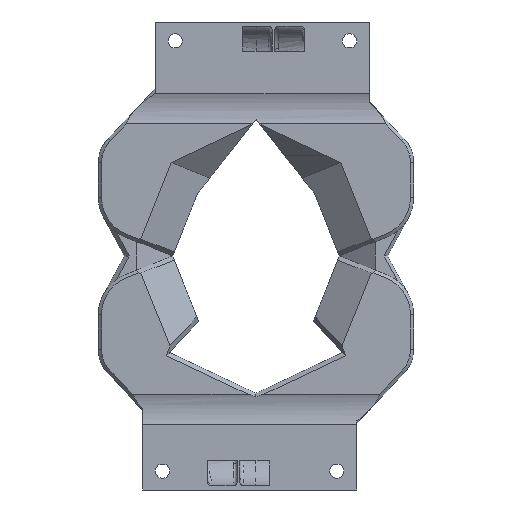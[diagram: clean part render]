
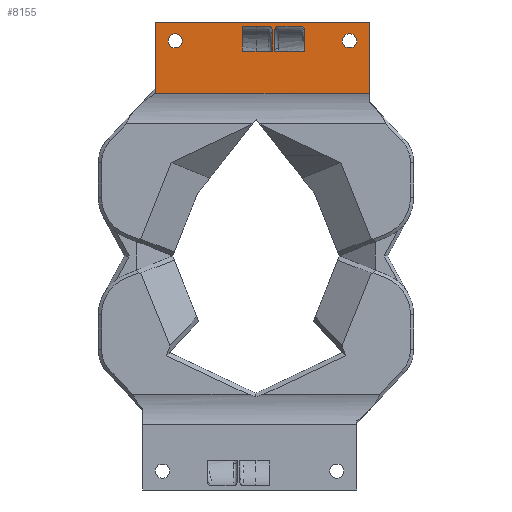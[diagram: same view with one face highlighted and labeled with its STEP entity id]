
A CAD part, left-side view. The second image highlights one B-rep face of the part: STEP entity #8155.
In plain terms, the highlighted planar face has unit normal (-1, 0, 0).
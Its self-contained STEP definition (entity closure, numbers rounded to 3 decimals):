
#33=FACE_BOUND('',#1445,.T.);
#34=FACE_BOUND('',#1446,.T.);
#35=FACE_BOUND('',#1447,.T.);
#36=FACE_BOUND('',#1448,.T.);
#341=CIRCLE('',#8670,1.65);
#342=CIRCLE('',#8672,1.65);
#344=CIRCLE('',#8675,1.);
#346=CIRCLE('',#8682,1.);
#347=CIRCLE('',#8690,1.);
#968=FACE_OUTER_BOUND('',#1444,.T.);
#1444=EDGE_LOOP('',(#7037,#7038,#7039,#7040,#7041));
#1445=EDGE_LOOP('',(#7042,#7043,#7044,#7045,#7046,#7047,#7048));
#1446=EDGE_LOOP('',(#7049,#7050,#7051,#7052,#7053,#7054,#7055));
#1447=EDGE_LOOP('',(#7056));
#1448=EDGE_LOOP('',(#7057));
#1953=LINE('',#16196,#2621);
#1955=LINE('',#16200,#2623);
#1957=LINE('',#16204,#2625);
#1959=LINE('',#16208,#2627);
#1962=LINE('',#16217,#2630);
#1964=LINE('',#16222,#2632);
#1966=LINE('',#16226,#2634);
#1968=LINE('',#16230,#2636);
#1971=LINE('',#16235,#2639);
#1973=LINE('',#16239,#2641);
#1975=LINE('',#16245,#2643);
#2024=LINE('',#16479,#2692);
#2059=LINE('',#16915,#2727);
#2060=LINE('',#16918,#2728);
#2061=LINE('',#16920,#2729);
#2062=LINE('',#16921,#2730);
#2621=VECTOR('',#10164,10.);
#2623=VECTOR('',#10168,10.);
#2625=VECTOR('',#10172,10.);
#2627=VECTOR('',#10176,10.);
#2630=VECTOR('',#10187,10.);
#2632=VECTOR('',#10191,10.);
#2634=VECTOR('',#10195,10.);
#2636=VECTOR('',#10199,10.);
#2639=VECTOR('',#10204,10.);
#2641=VECTOR('',#10208,10.);
#2643=VECTOR('',#10216,10.);
#2692=VECTOR('',#10359,10.);
#2727=VECTOR('',#10486,10.);
#2728=VECTOR('',#10489,10.);
#2729=VECTOR('',#10490,10.);
#2730=VECTOR('',#10491,10.);
#3665=VERTEX_POINT('',#16179);
#3666=VERTEX_POINT('',#16183);
#3668=VERTEX_POINT('',#16189);
#3669=VERTEX_POINT('',#16191);
#3670=VERTEX_POINT('',#16195);
#3671=VERTEX_POINT('',#16199);
#3672=VERTEX_POINT('',#16203);
#3673=VERTEX_POINT('',#16207);
#3675=VERTEX_POINT('',#16213);
#3676=VERTEX_POINT('',#16219);
#3677=VERTEX_POINT('',#16221);
#3678=VERTEX_POINT('',#16225);
#3679=VERTEX_POINT('',#16229);
#3680=VERTEX_POINT('',#16233);
#3681=VERTEX_POINT('',#16237);
#3682=VERTEX_POINT('',#16241);
#3731=VERTEX_POINT('',#16477);
#3732=VERTEX_POINT('',#16478);
#3771=VERTEX_POINT('',#16913);
#3772=VERTEX_POINT('',#16917);
#3773=VERTEX_POINT('',#16919);
#4723=EDGE_CURVE('',#3665,#3665,#341,.T.);
#4725=EDGE_CURVE('',#3666,#3666,#342,.T.);
#4729=EDGE_CURVE('',#3668,#3669,#344,.T.);
#4731=EDGE_CURVE('',#3669,#3670,#1953,.T.);
#4733=EDGE_CURVE('',#3670,#3671,#1955,.T.);
#4735=EDGE_CURVE('',#3671,#3672,#1957,.T.);
#4737=EDGE_CURVE('',#3672,#3673,#1959,.T.);
#4740=EDGE_CURVE('',#3673,#3675,#346,.T.);
#4742=EDGE_CURVE('',#3675,#3668,#1962,.T.);
#4744=EDGE_CURVE('',#3676,#3677,#1964,.T.);
#4746=EDGE_CURVE('',#3677,#3678,#1966,.T.);
#4748=EDGE_CURVE('',#3678,#3679,#1968,.T.);
#4751=EDGE_CURVE('',#3679,#3680,#1971,.T.);
#4753=EDGE_CURVE('',#3680,#3681,#1973,.T.);
#4755=EDGE_CURVE('',#3681,#3682,#347,.T.);
#4756=EDGE_CURVE('',#3682,#3676,#1975,.T.);
#4833=EDGE_CURVE('',#3731,#3732,#2024,.T.);
#4905=EDGE_CURVE('',#3771,#3732,#2059,.T.);
#4906=EDGE_CURVE('',#3771,#3772,#2060,.T.);
#4907=EDGE_CURVE('',#3773,#3772,#2061,.T.);
#4908=EDGE_CURVE('',#3731,#3773,#2062,.T.);
#7037=ORIENTED_EDGE('',*,*,#4833,.T.);
#7038=ORIENTED_EDGE('',*,*,#4905,.F.);
#7039=ORIENTED_EDGE('',*,*,#4906,.T.);
#7040=ORIENTED_EDGE('',*,*,#4907,.F.);
#7041=ORIENTED_EDGE('',*,*,#4908,.F.);
#7042=ORIENTED_EDGE('',*,*,#4756,.F.);
#7043=ORIENTED_EDGE('',*,*,#4755,.F.);
#7044=ORIENTED_EDGE('',*,*,#4753,.F.);
#7045=ORIENTED_EDGE('',*,*,#4751,.F.);
#7046=ORIENTED_EDGE('',*,*,#4748,.F.);
#7047=ORIENTED_EDGE('',*,*,#4746,.F.);
#7048=ORIENTED_EDGE('',*,*,#4744,.F.);
#7049=ORIENTED_EDGE('',*,*,#4742,.F.);
#7050=ORIENTED_EDGE('',*,*,#4740,.F.);
#7051=ORIENTED_EDGE('',*,*,#4737,.F.);
#7052=ORIENTED_EDGE('',*,*,#4735,.F.);
#7053=ORIENTED_EDGE('',*,*,#4733,.F.);
#7054=ORIENTED_EDGE('',*,*,#4731,.F.);
#7055=ORIENTED_EDGE('',*,*,#4729,.F.);
#7056=ORIENTED_EDGE('',*,*,#4725,.F.);
#7057=ORIENTED_EDGE('',*,*,#4723,.F.);
#7720=PLANE('',#8785);
#8155=ADVANCED_FACE('',(#968,#33,#34,#35,#36),#7720,.F.);
#8670=AXIS2_PLACEMENT_3D('',#16180,#10146,#10147);
#8672=AXIS2_PLACEMENT_3D('',#16184,#10151,#10152);
#8675=AXIS2_PLACEMENT_3D('',#16192,#10159,#10160);
#8682=AXIS2_PLACEMENT_3D('',#16214,#10182,#10183);
#8690=AXIS2_PLACEMENT_3D('',#16243,#10212,#10213);
#8785=AXIS2_PLACEMENT_3D('',#16916,#10487,#10488);
#10146=DIRECTION('center_axis',(-1.,0.,0.));
#10147=DIRECTION('ref_axis',(0.,-1.,0.));
#10151=DIRECTION('center_axis',(-1.,0.,0.));
#10152=DIRECTION('ref_axis',(0.,-1.,0.));
#10159=DIRECTION('center_axis',(-1.,0.,0.));
#10160=DIRECTION('ref_axis',(0.,0.707,0.707));
#10164=DIRECTION('',(0.,0.,-1.));
#10168=DIRECTION('',(0.,0.,-1.));
#10172=DIRECTION('',(0.,-1.,0.));
#10176=DIRECTION('',(0.,0.,1.));
#10182=DIRECTION('center_axis',(-1.,0.,0.));
#10183=DIRECTION('ref_axis',(0.,-0.707,0.707));
#10187=DIRECTION('',(0.,1.,0.));
#10191=DIRECTION('',(0.,1.,0.));
#10195=DIRECTION('',(0.,0.,-1.));
#10199=DIRECTION('',(0.,-1.,0.));
#10204=DIRECTION('',(0.,-1.,0.));
#10208=DIRECTION('',(0.,0.,1.));
#10212=DIRECTION('center_axis',(-1.,0.,0.));
#10213=DIRECTION('ref_axis',(0.,-0.707,0.707));
#10216=DIRECTION('',(0.,1.,0.));
#10359=DIRECTION('',(0.,0.,-1.));
#10486=DIRECTION('',(0.,-0.684,0.73));
#10487=DIRECTION('center_axis',(1.,0.,0.));
#10488=DIRECTION('ref_axis',(0.,0.,1.));
#10489=DIRECTION('',(0.,-1.,0.));
#10490=DIRECTION('',(0.,0.,-1.));
#10491=DIRECTION('',(0.,-1.,0.));
#16179=CARTESIAN_POINT('',(-39.86,129.124,25.104));
#16180=CARTESIAN_POINT('Origin',(-39.86,127.474,25.104));
#16183=CARTESIAN_POINT('',(-39.86,88.624,25.104));
#16184=CARTESIAN_POINT('Origin',(-39.86,86.974,25.104));
#16189=CARTESIAN_POINT('',(-39.86,103.411,28.495));
#16191=CARTESIAN_POINT('',(-39.86,104.411,27.495));
#16192=CARTESIAN_POINT('Origin',(-39.86,103.411,27.495));
#16195=CARTESIAN_POINT('',(-39.86,104.411,22.97));
#16196=CARTESIAN_POINT('',(-39.86,104.411,-23.161));
#16199=CARTESIAN_POINT('',(-39.86,104.411,22.72));
#16200=CARTESIAN_POINT('',(-39.86,104.411,-25.923));
#16203=CARTESIAN_POINT('',(-39.86,97.38,22.72));
#16204=CARTESIAN_POINT('',(-39.86,96.258,22.72));
#16207=CARTESIAN_POINT('',(-39.86,97.38,27.526));
#16208=CARTESIAN_POINT('',(-39.86,97.38,-23.161));
#16213=CARTESIAN_POINT('',(-39.86,98.38,28.495));
#16214=CARTESIAN_POINT('Origin',(-39.86,98.38,27.495));
#16217=CARTESIAN_POINT('',(-39.86,103.539,28.495));
#16219=CARTESIAN_POINT('',(-39.86,108.703,28.495));
#16221=CARTESIAN_POINT('',(-39.86,111.942,28.495));
#16222=CARTESIAN_POINT('',(-39.86,100.37,28.495));
#16225=CARTESIAN_POINT('',(-39.86,111.942,22.72));
#16226=CARTESIAN_POINT('',(-39.86,111.942,-22.165));
#16229=CARTESIAN_POINT('',(-39.86,108.703,22.72));
#16230=CARTESIAN_POINT('',(-39.86,107.651,22.72));
#16233=CARTESIAN_POINT('',(-39.86,104.911,22.72));
#16235=CARTESIAN_POINT('',(-39.86,96.258,22.72));
#16237=CARTESIAN_POINT('',(-39.86,104.911,27.495));
#16239=CARTESIAN_POINT('',(-39.86,104.911,-34.797));
#16241=CARTESIAN_POINT('',(-39.86,105.911,28.495));
#16243=CARTESIAN_POINT('Origin',(-39.86,105.911,27.495));
#16245=CARTESIAN_POINT('',(-39.86,103.539,28.495));
#16477=CARTESIAN_POINT('',(-39.86,132.122,29.495));
#16478=CARTESIAN_POINT('',(-39.86,132.122,13.));
#16479=CARTESIAN_POINT('',(-39.86,132.122,-32.374));
#16913=CARTESIAN_POINT('',(-39.86,132.273,12.839));
#16915=CARTESIAN_POINT('',(-39.86,147.675,-3.595));
#16916=CARTESIAN_POINT('Origin',(-39.86,95.206,-74.816));
#16917=CARTESIAN_POINT('',(-39.86,82.354,12.839));
#16918=CARTESIAN_POINT('',(-39.86,69.561,12.839));
#16919=CARTESIAN_POINT('',(-39.86,82.354,29.495));
#16920=CARTESIAN_POINT('',(-39.86,82.354,-32.374));
#16921=CARTESIAN_POINT('',(-39.86,106.375,29.495));
